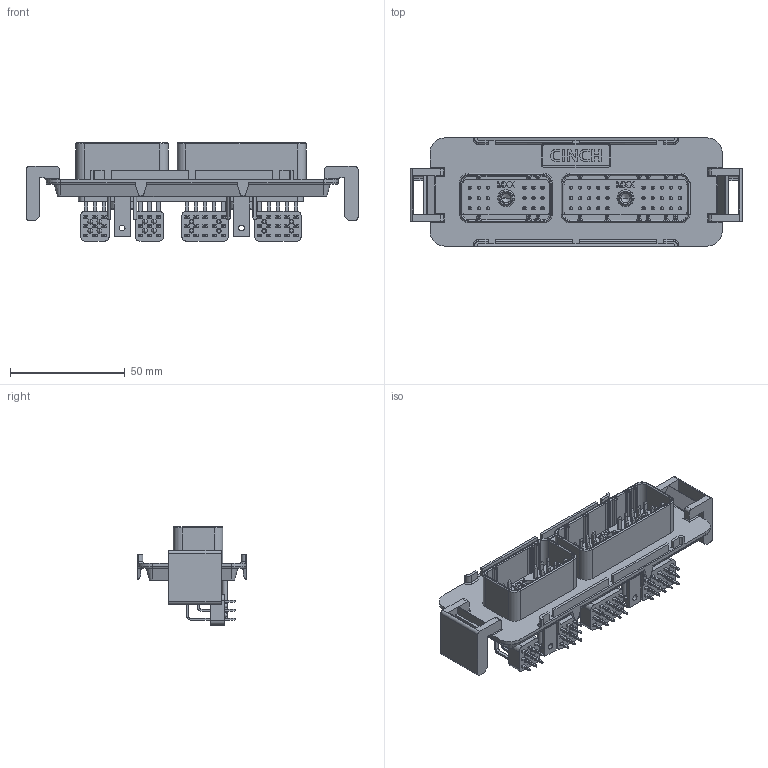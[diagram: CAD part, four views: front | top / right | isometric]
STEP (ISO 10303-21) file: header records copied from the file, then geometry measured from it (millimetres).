
FILE_DESCRIPTION((''),'2;1');
FILE_NAME('5810148007_ASM','2008-07-08T',('eake'),(''),'PRO/ENGINEER BY PARAMETRIC TECHNOLOGY CORPORATION, 2005451','PRO/ENGINEER BY PARAMETRIC TECHNOLOGY CORPORATION, 2005451','');
FILE_SCHEMA(('CONFIG_CONTROL_DESIGN'));
Length unit declared in the file: inch
Products named in the file (13): FOR4828770153; 4624111583HEX; 4828770153_30-48WAY_ASM; 4040011205_TYPE1; 4040011206_TYPE2; 4040011207_TYPE3; 4630899118; 4630899124; 4741199176; 4741199188; 5810148005_15PIN_EPOXY; 5810148005_9PIN_EPOXY; 5810148007_ASM
Assembly tree (62 placements, depth 3):
  5810148007_ASM
    4828770153_30-48WAY_ASM
      FOR4828770153
      4624111583HEX  x2
    4040011205_TYPE1  x16
    4040011206_TYPE2  x16
    4040011207_TYPE3  x16
    4630899118
    4630899124
    4741199176  x2
    4741199188  x2
    5810148005_15PIN_EPOXY  x2
    5810148005_9PIN_EPOXY  x2
Bounding box: 144.78 x 47.12 x 42.96 mm (x, y, z)
Volume: 48135.7 mm3; surface area: 65988.1 mm2
Topology: 61 solids, 61 shells, 5589 faces, 15332 edges, 9782 vertices
Faces by surface type: plane 3793, cylinder 1630, torus 68, sphere 52, bspline 30, cone 16
Entity records: 91477 total; most frequent: CARTESIAN_POINT 18643, ORIENTED_EDGE 15250, DIRECTION 14836, EDGE_CURVE 7625, VECTOR 5626, LINE 5626, VERTEX_POINT 4844, AXIS2_PLACEMENT_3D 4605
